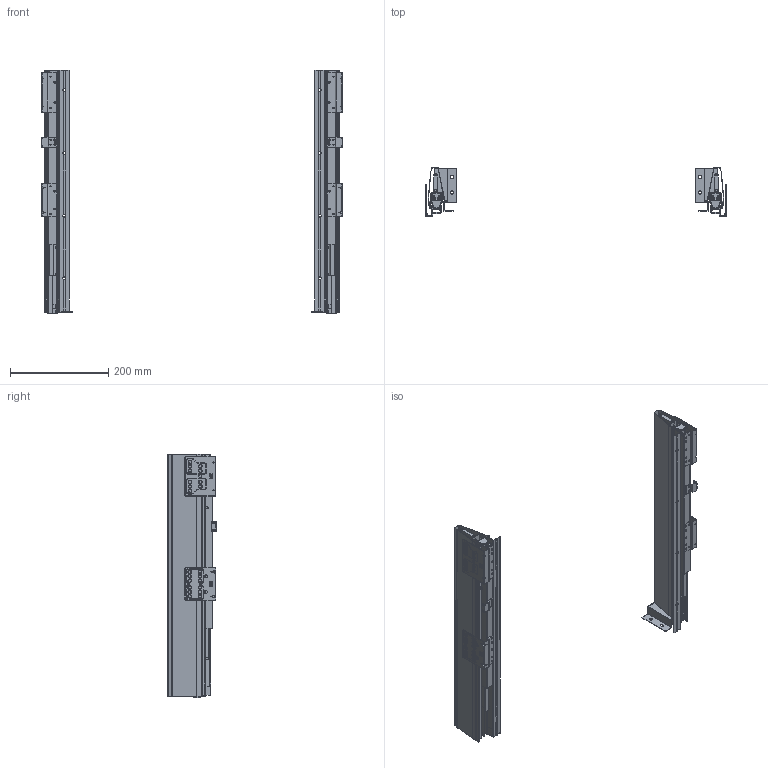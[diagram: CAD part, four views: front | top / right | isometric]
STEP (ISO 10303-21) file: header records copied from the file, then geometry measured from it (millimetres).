
FILE_DESCRIPTION(/* description */ (''),/* implementation_level */ '2;1');
FILE_NAME(/* name */ 'C:/Users/smeja/Desktop/PRACOVNÍ/StrongBox_3D/Výška 86 - 500 mm Š + B - 179257 a 146757.step',/* time_stamp */ '2019-05-30T07:28:17+02:00',/* author */ (''),/* organization */ (''),/* preprocessor_version */ 'ST-DEVELOPER v18',/* originating_system */ 'Autodesk Translation Framework v8.2.0.1029',/* authorisation */ '');
FILE_SCHEMA (('AUTOMOTIVE_DESIGN { 1 0 10303 214 3 1 1 }'));
Products named in the file (1): (Unsaved)
Bounding box: 613.19 x 98.92 x 497 mm (x, y, z)
Volume: 446094 mm3; surface area: 936378.7 mm2
Topology: 24 solids, 24 shells, 2854 faces, 7570 edges, 4900 vertices
Faces by surface type: plane 1572, cylinder 938, cone 176, bspline 72, torus 68, sphere 28
Entity records: 92307 total; most frequent: CARTESIAN_POINT 19893, ORIENTED_EDGE 15140, DIRECTION 15014, EDGE_CURVE 7570, LINE 5160, VECTOR 5160, AXIS2_PLACEMENT_3D 4927, VERTEX_POINT 4900
